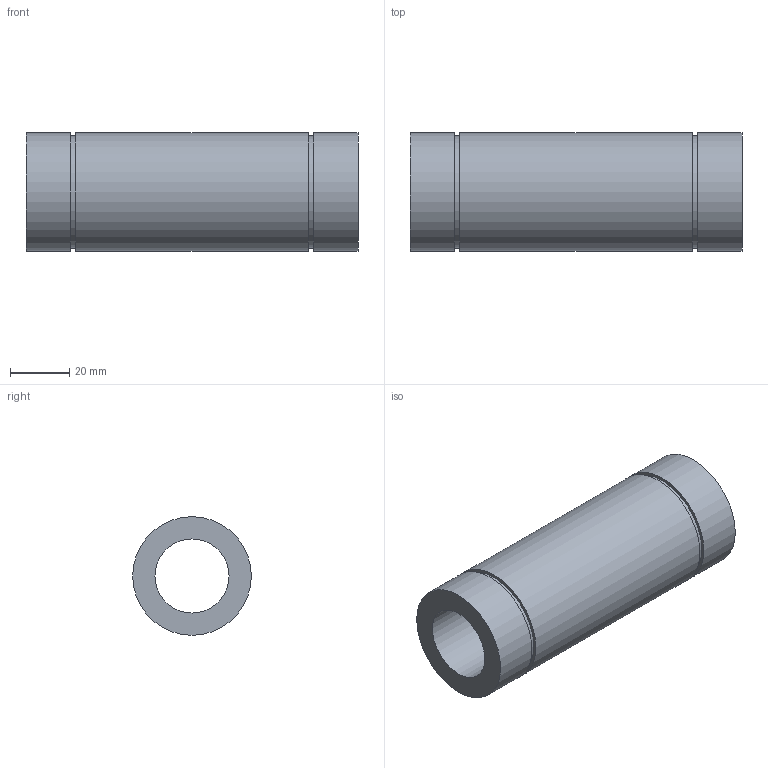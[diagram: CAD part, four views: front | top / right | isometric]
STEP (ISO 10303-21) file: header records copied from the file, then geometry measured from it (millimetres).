
FILE_DESCRIPTION(/* description */ ('Unknown'),/* implementation_level */ '2;1');
FILE_NAME(/* name */ 'LM25LUU',/* time_stamp */ '2025-02-03T15:01:32+08:00',/* author */ ('Unknown'),/* organization */ ('Unknown'),/* preprocessor_version */ 'ST-DEVELOPER v18.102',/* originating_system */ 'Solid Edge',/* authorisation */ 'Unknown');
FILE_SCHEMA (('AUTOMOTIVE_DESIGN {1 0 10303 214 3 1 1}'));
Length unit declared in the file: millimetre
Products named in the file (1): LM25LUU
Bounding box: 112 x 40 x 40 mm (x, y, z)
Volume: 85312.1 mm3; surface area: 24869.2 mm2
Topology: 1 solids, 1 shells, 12 faces, 20 edges, 14 vertices
Faces by surface type: cylinder 6, plane 6
Full cylindrical faces by diameter (mm): 25 x1, 38 x2, 40 x3
Entity records: 278 total; most frequent: DIRECTION 50, CARTESIAN_POINT 37, AXIS2_PLACEMENT_3D 25, ORIENTED_EDGE 24, EDGE_LOOP 24, FACE_BOUND 24, EDGE_CURVE 12, VERTEX_POINT 12
